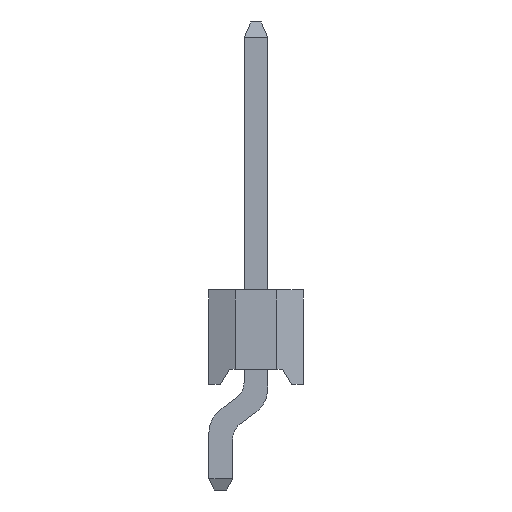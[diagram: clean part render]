
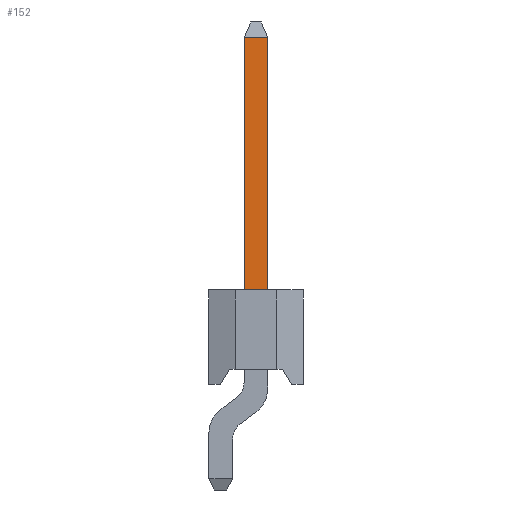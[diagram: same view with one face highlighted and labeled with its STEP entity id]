
A CAD part, left-side view. The second image highlights one B-rep face of the part: STEP entity #152.
In plain terms, the highlighted planar face has unit normal (-1, 0, 0).
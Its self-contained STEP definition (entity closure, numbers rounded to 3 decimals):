
#152=ADVANCED_FACE('',(#634),#408,.T.);
#408=PLANE('',#4793);
#634=FACE_OUTER_BOUND('',#904,.T.);
#904=EDGE_LOOP('',(#1350,#1351,#1352,#1353));
#1350=ORIENTED_EDGE('',*,*,#3084,.T.);
#1351=ORIENTED_EDGE('',*,*,#3085,.T.);
#1352=ORIENTED_EDGE('',*,*,#3086,.F.);
#1353=ORIENTED_EDGE('',*,*,#3070,.F.);
#2634=VERTEX_POINT('',#6676);
#2635=VERTEX_POINT('',#6677);
#2642=VERTEX_POINT('',#6703);
#2643=VERTEX_POINT('',#6705);
#3070=EDGE_CURVE('',#2634,#2635,#3734,.T.);
#3084=EDGE_CURVE('',#2634,#2642,#3748,.T.);
#3085=EDGE_CURVE('',#2642,#2643,#3749,.T.);
#3086=EDGE_CURVE('',#2635,#2643,#3750,.T.);
#3734=LINE('',#6675,#4342);
#3748=LINE('',#6702,#4356);
#3749=LINE('',#6704,#4357);
#3750=LINE('',#6706,#4358);
#4342=VECTOR('',#5291,1.);
#4356=VECTOR('',#5315,1.);
#4357=VECTOR('',#5316,1.);
#4358=VECTOR('',#5317,1.);
#4793=AXIS2_PLACEMENT_3D('',#6707,#5318,#5319);
#5291=DIRECTION('',(0.,1.,0.));
#5315=DIRECTION('',(0.,0.,1.));
#5316=DIRECTION('',(0.,1.,0.));
#5317=DIRECTION('',(0.,0.,1.));
#5318=DIRECTION('',(-1.,0.,0.));
#5319=DIRECTION('',(0.,0.,1.));
#6675=CARTESIAN_POINT('',(0.955,0.935,2.1));
#6676=CARTESIAN_POINT('',(0.955,0.935,2.1));
#6677=CARTESIAN_POINT('',(0.955,1.565,2.1));
#6702=CARTESIAN_POINT('',(0.955,0.935,9.2));
#6703=CARTESIAN_POINT('',(0.955,0.935,8.8));
#6704=CARTESIAN_POINT('',(0.955,0.935,8.8));
#6705=CARTESIAN_POINT('',(0.955,1.565,8.8));
#6706=CARTESIAN_POINT('',(0.955,1.565,9.2));
#6707=CARTESIAN_POINT('',(0.955,0.935,2.1));
